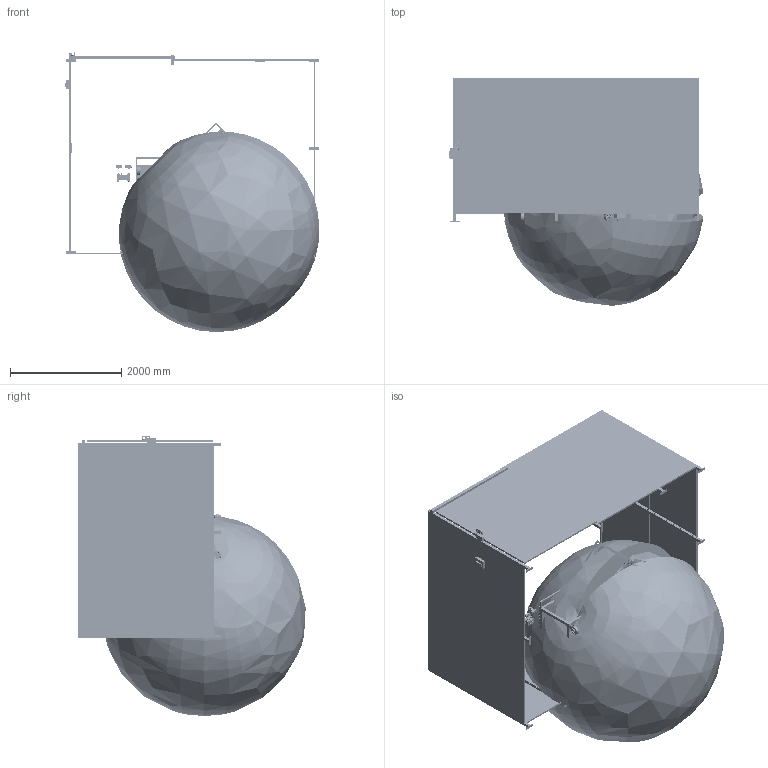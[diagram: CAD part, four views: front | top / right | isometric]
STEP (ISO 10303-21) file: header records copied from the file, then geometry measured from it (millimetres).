
FILE_DESCRIPTION (( 'STEP AP214' ), '1' );
FILE_NAME ('HRP-2_STEP__1_2022.step', '2022-01-13T19:06:38', ( '' ), ( '' ), 'SwSTEP 2.0', 'SolidWorks 2021', '' );
FILE_SCHEMA (( 'AUTOMOTIVE_DESIGN' ));
Length unit declared in the file: inch
Products named in the file (84): 10000157227-6-8-2021_2; 10000185075_HRP_2_2; Gripper 3_HRP-2_1_2022; 10000171491_HRP_2_2; Link 6_HRP-2_1_2022; 10000178416_HRP_2_2_Left ; 10000157226-6-8-2021_2; 40-0159_HRP-2_40-0159; 40-1615_HRP_2_2; 45-1731_HRP_2_2; Shaft Support Templates ; 10000157234-6-8-2021_2; 10000105590_HRP-2_Standard; 10000157236-6-8-2021_2; HRP-2-CART; 10000175599-6-8-2021_2; ROBOT PKG-2_defeature^PART FLIPPING STATION_HRP-2; 40-0159_HRP_2_2_40-0159; 10000171193_HRP_2_2; 10000110120_HRP-2_2; 10000180179_HRP_2_2; 10000172861_HRP-2; 10000178432_HRP_2_2; Reach_HRP-2_1_2022; 10000178419_HRP_2_2; 10000172859_HRP-2; 10000172960_HRP_2_2_30305T15; 40-1716_HRP_2_2; 10000181603_HRP-2_Gripped; 10000164211_HRP-2; 10000172858_HRP-2; Load Templates_HRP-2_2; 10000110125_HRP-2_2; 10000110141_HRP-2_2; Shaft Loading Clamps; 40-1647_HRP-2; 10000157223-6-8-2021_2; 10000172860_HRP-2; 10000171492_HRP_2_2; 10000157229-6-8-2021_2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
Assembly tree (231 placements, depth 5):
  HRP-2_STEP__1_2022
    Reach_HRP-2_1_2022
      10000157227-6-8-2021_2
        10000157243-6-8-2021_2
        10000157249-6-8-2021_2
        10000157246-6-8-2021_2
    Base_HRP-2_1_2022
      10000157237-6-8-2021_2
      10000175599-6-8-2021_2
      10000157223-6-8-2021_2
    Link 1_HRP-2_1_2022
      10000157234-6-8-2021_2
      10000157225-6-8-2021_2
    Link 2_HRP-2_1_2022
      10000157236-6-8-2021_2
    Link 3_HRP-2_1_2022
      10000157233-6-8-2021_2
      10000157224-6-8-2021_2
      10000173323-6-8-2021_2
    Link 5_HRP-2_1_2022
      10000157235-6-8-2021_2
    Link 6_HRP-2_1_2022
      10000157226-6-8-2021_2
    Gripper 1_HRP-2_1_2022
      10000157229-6-8-2021_2
      Gripper_2
    Gripper 3_HRP-2_1_2022
      Shaft Loading Clamps
        40-1615_HRP_2_2  x8
        40-0159_HRP_2_2_40-0159  x4
        45-1731_HRP_2_2  x4
        40-1716_HRP_2_2  x4
        10000178416_HRP_2_2_Right 
        10000178419_HRP_2_2  x2
        10000178432_HRP_2_2  x4
        10000178416_HRP_2_2_Left 
    Gripper 2_HRP-2_1_2022
      10000181603_HRP-2_Gripped
        10000172862_HRP-2_OPEN
          10000172859_HRP-2  x2
          10000172856_HRP-2
          10000172858_HRP-2
          10000172857_HRP-2  x2
          10000172855_HRP-2
          10000172861_HRP-2
          10000172860_HRP-2
        10000164211_HRP-2
        40-1647_HRP-2  x14
        10000011865_HRP-2_40-0089  x4
        10000105590_HRP-2_Standard  x2
        58-3050_HRP-2  x2
        10000179905_HRP-2  x2
        10000105593_HRP-2  x4
        40-0159_HRP-2_40-0159  x4
    FENCE_2_Default_defeature
      Default_defeature^FENCE_2
    Shaft Loading Kit_HRP_2_2
      HRP-2-CART
        10000171489_HRP_2_2
          10000171492_HRP_2_2  x4
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Bounding box: 4580.2 x 4085.69 x 5034.9 mm (x, y, z)
Volume: 39754162847.3 mm3; surface area: 197381996.5 mm2
Topology: 518 solids, 550 shells, 24907 faces, 63577 edges, 40758 vertices
Faces by surface type: plane 10877, cylinder 9145, cone 2287, bspline 2256, torus 324, sphere 18
Entity records: 731931 total; most frequent: CARTESIAN_POINT 276541, ORIENTED_EDGE 81196, DIRECTION 71076, EDGE_CURVE 40601, VERTEX_POINT 26333, AXIS2_PLACEMENT_3D 23988, VECTOR 23100, LINE 23100
